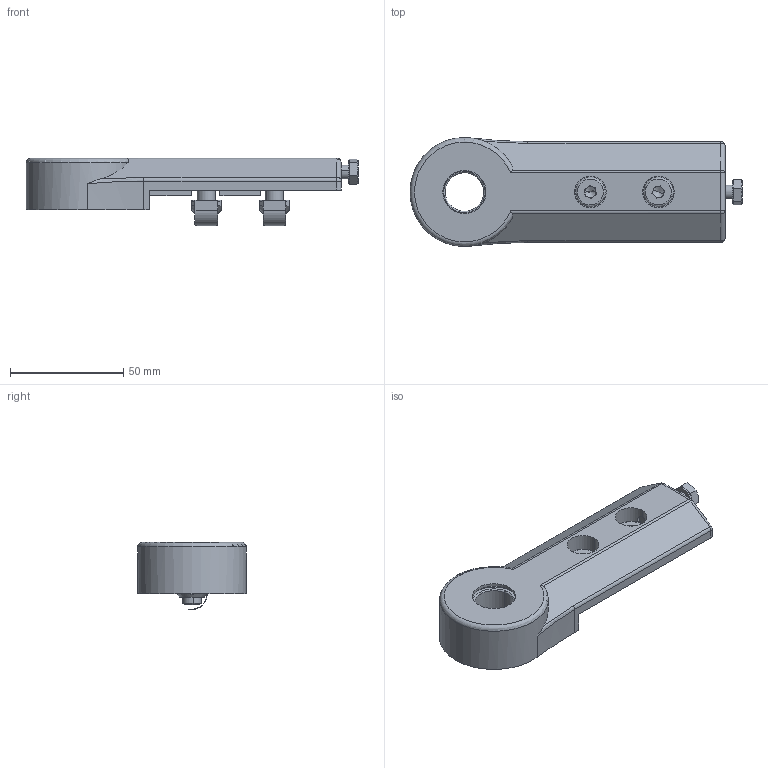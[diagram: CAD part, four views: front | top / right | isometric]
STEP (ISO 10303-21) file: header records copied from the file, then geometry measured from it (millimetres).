
FILE_DESCRIPTION (( 'STEP AP214' ), '1' );
FILE_NAME ('1.8002 Kuljetinhihnalaakeri 45 reiällä.STEP', '2025-09-18T07:51:02', ( '' ), ( '' ), 'SwSTEP 2.0', 'SolidWorks 2025', '' );
FILE_SCHEMA (( 'AUTOMOTIVE_DESIGN' ));
Length unit declared in the file: millimetre
Products named in the file (1): 1.8002 Kuljetinhihnalaakeri 45 reiällä
Bounding box: 146.38 x 48 x 29.65 mm (x, y, z)
Surface area: 29827.8 mm2 (no closed solid volume)
Topology: 0 solids, 8 shells, 242 faces, 565 edges, 344 vertices
Faces by surface type: plane 117, cylinder 60, cone 38, bspline 14, torus 9, sphere 4
Entity records: 10019 total; most frequent: CARTESIAN_POINT 1850, DIRECTION 1144, ORIENTED_EDGE 1110, EDGE_CURVE 559, AXIS2_PLACEMENT_3D 432, VERTEX_POINT 344, LINE 280, VECTOR 280
